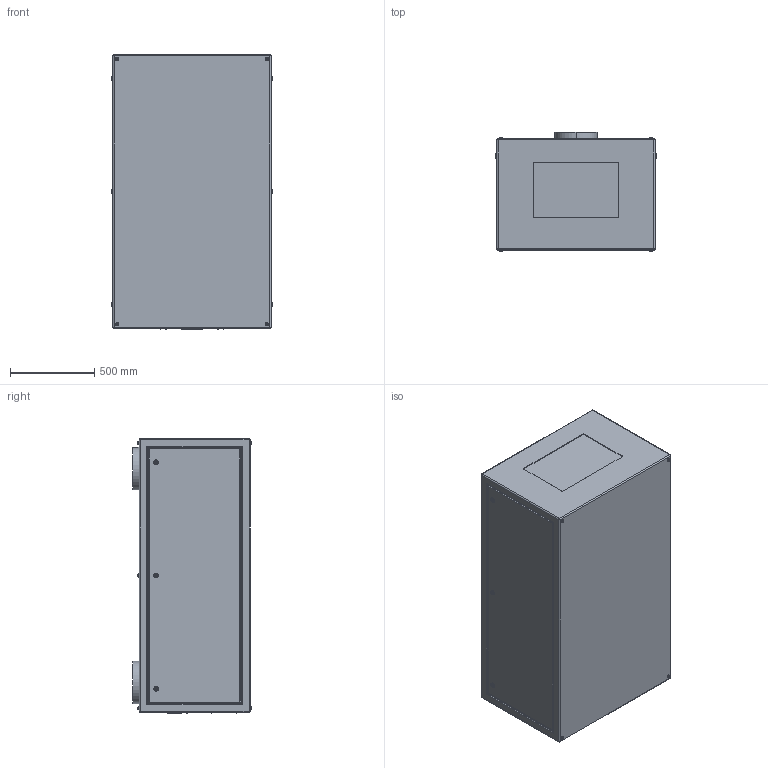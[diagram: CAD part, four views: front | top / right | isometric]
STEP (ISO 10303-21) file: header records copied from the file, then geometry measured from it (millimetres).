
FILE_DESCRIPTION (( 'STEP AP214' ), '1' );
FILE_NAME ('Tacit 56.525.L R08.STEP', '2022-09-11T22:42:27', ( '' ), ( '' ), 'SwSTEP 2.0', 'SolidWorks 2020', '' );
FILE_SCHEMA (( 'AUTOMOTIVE_DESIGN' ));
Length unit declared in the file: inch
Products named in the file (1): Tacit 56.525.L R08
Bounding box: 952.5 x 705.76 x 1630.68 mm (x, y, z)
Volume: 1007205914.4 mm3; surface area: 6834790.4 mm2
Topology: 1 solids, 7 shells, 401 faces, 892 edges, 560 vertices
Faces by surface type: plane 177, cylinder 168, torus 48, sphere 8
Entity records: 15011 total; most frequent: CARTESIAN_POINT 2382, DIRECTION 1972, ORIENTED_EDGE 1768, EDGE_CURVE 884, AXIS2_PLACEMENT_3D 782, VERTEX_POINT 560, EDGE_LOOP 464, VECTOR 408
